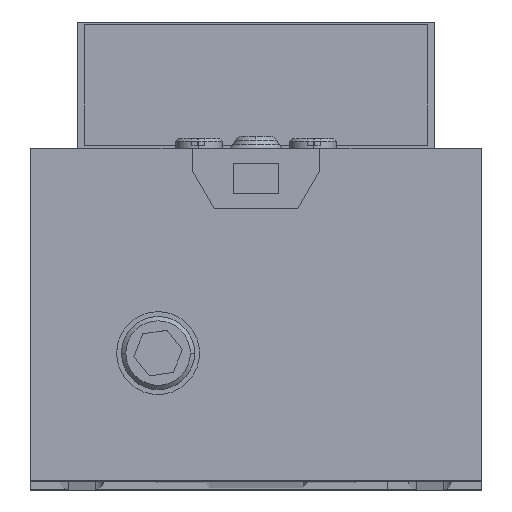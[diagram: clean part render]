
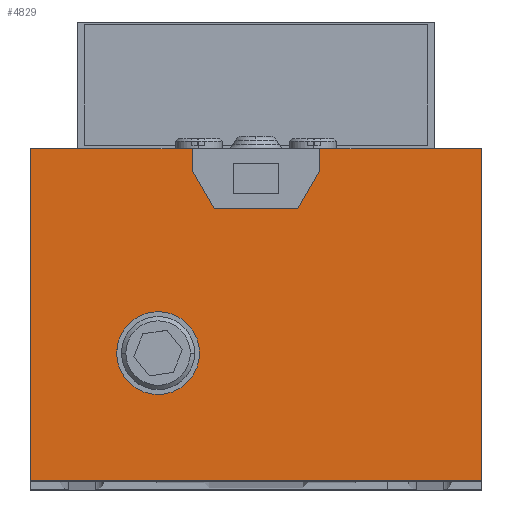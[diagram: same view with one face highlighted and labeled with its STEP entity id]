
A CAD part, top view. The second image highlights one B-rep face of the part: STEP entity #4829.
In plain terms, the highlighted planar face has unit normal (0, 0, 1).
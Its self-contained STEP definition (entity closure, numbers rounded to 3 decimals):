
#79 = DIRECTION ( 'NONE',  ( 1., 0., 0. ) ) ;
#180 = EDGE_CURVE ( 'NONE', #296, #12547, #5955, .T. ) ;
#217 = CARTESIAN_POINT ( 'NONE',  ( 0., 0., 30. ) ) ;
#296 = VERTEX_POINT ( 'NONE', #8916 ) ;
#425 = LINE ( 'NONE', #2721, #6336 ) ;
#895 = EDGE_CURVE ( 'NONE', #3983, #8780, #11361, .T. ) ;
#1002 = EDGE_CURVE ( 'NONE', #8101, #296, #13985, .T. ) ;
#1092 = CARTESIAN_POINT ( 'NONE',  ( -26.5, 0., 30. ) ) ;
#1186 = EDGE_CURVE ( 'NONE', #3787, #2073, #9340, .T. ) ;
#1224 = VECTOR ( 'NONE', #12888, 1000. ) ;
#1311 = DIRECTION ( 'NONE',  ( 1., 0., 0. ) ) ;
#1518 = AXIS2_PLACEMENT_3D ( 'NONE', #217, #12612, #13792 ) ;
#1673 = CARTESIAN_POINT ( 'NONE',  ( -7.5, 39., 30. ) ) ;
#1676 = DIRECTION ( 'NONE',  ( 0., 0., 1. ) ) ;
#1858 = ORIENTED_EDGE ( 'NONE', *, *, #895, .T. ) ;
#1942 = DIRECTION ( 'NONE',  ( 0., -1., 0. ) ) ;
#2060 = DIRECTION ( 'NONE',  ( 0., 0., 1. ) ) ;
#2073 = VERTEX_POINT ( 'NONE', #10805 ) ;
#2089 = ORIENTED_EDGE ( 'NONE', *, *, #11333, .F. ) ;
#2658 = VECTOR ( 'NONE', #6036, 1000. ) ;
#2721 = CARTESIAN_POINT ( 'NONE',  ( -26.5, 39., 30. ) ) ;
#2723 = CARTESIAN_POINT ( 'NONE',  ( -4.9, 32., 30. ) ) ;
#3033 = LINE ( 'NONE', #14271, #8878 ) ;
#3170 = CARTESIAN_POINT ( 'NONE',  ( -16.365, 15., 30. ) ) ;
#3192 = ORIENTED_EDGE ( 'NONE', *, *, #9588, .F. ) ;
#3418 = VERTEX_POINT ( 'NONE', #3170 ) ;
#3671 = PLANE ( 'NONE',  #1518 ) ;
#3787 = VERTEX_POINT ( 'NONE', #3978 ) ;
#3978 = CARTESIAN_POINT ( 'NONE',  ( 4.9, 32., 30. ) ) ;
#3983 = VERTEX_POINT ( 'NONE', #8299 ) ;
#3995 = DIRECTION ( 'NONE',  ( 1., 0., 0. ) ) ;
#4612 = CARTESIAN_POINT ( 'NONE',  ( 4.9, 32., 30. ) ) ;
#4829 = ADVANCED_FACE ( 'NONE', ( #7302, #13667 ), #3671, .T. ) ;
#4854 = VERTEX_POINT ( 'NONE', #5975 ) ;
#4855 = DIRECTION ( 'NONE',  ( 0.5, -0.866, 0. ) ) ;
#5043 = CARTESIAN_POINT ( 'NONE',  ( 26.5, 39., 30. ) ) ;
#5399 = VECTOR ( 'NONE', #1311, 1000. ) ;
#5507 = LINE ( 'NONE', #11919, #13788 ) ;
#5543 = LINE ( 'NONE', #4612, #12081 ) ;
#5657 = AXIS2_PLACEMENT_3D ( 'NONE', #11643, #1676, #3995 ) ;
#5709 = EDGE_CURVE ( 'NONE', #8101, #6420, #5507, .T. ) ;
#5955 = LINE ( 'NONE', #10405, #11650 ) ;
#5975 = CARTESIAN_POINT ( 'NONE',  ( 7.5, 39., 30. ) ) ;
#6036 = DIRECTION ( 'NONE',  ( 0., 1., 0. ) ) ;
#6166 = EDGE_CURVE ( 'NONE', #2073, #4854, #9204, .T. ) ;
#6336 = VECTOR ( 'NONE', #7134, 1000. ) ;
#6420 = VERTEX_POINT ( 'NONE', #13857 ) ;
#6438 = CARTESIAN_POINT ( 'NONE',  ( 26.5, 0., 30. ) ) ;
#6475 = DIRECTION ( 'NONE',  ( 1., 0., 0. ) ) ;
#6566 = CIRCLE ( 'NONE', #5657, 4.865 ) ;
#6584 = EDGE_LOOP ( 'NONE', ( #3192, #2089 ) ) ;
#6739 = AXIS2_PLACEMENT_3D ( 'NONE', #7563, #2060, #6475 ) ;
#6750 = ORIENTED_EDGE ( 'NONE', *, *, #6872, .T. ) ;
#6872 = EDGE_CURVE ( 'NONE', #6420, #3983, #3033, .T. ) ;
#7087 = DIRECTION ( 'NONE',  ( 0., 1., 0. ) ) ;
#7134 = DIRECTION ( 'NONE',  ( -1., 0., 0. ) ) ;
#7302 = FACE_BOUND ( 'NONE', #6584, .T. ) ;
#7320 = ORIENTED_EDGE ( 'NONE', *, *, #180, .F. ) ;
#7323 = CARTESIAN_POINT ( 'NONE',  ( -7.5, 36.5, 30. ) ) ;
#7357 = EDGE_CURVE ( 'NONE', #8780, #13199, #12542, .T. ) ;
#7563 = CARTESIAN_POINT ( 'NONE',  ( -11.5, 15., 30. ) ) ;
#7697 = VECTOR ( 'NONE', #11410, 1000. ) ;
#8101 = VERTEX_POINT ( 'NONE', #1673 ) ;
#8127 = ORIENTED_EDGE ( 'NONE', *, *, #5709, .T. ) ;
#8299 = CARTESIAN_POINT ( 'NONE',  ( -26.5, 0., 30. ) ) ;
#8780 = VERTEX_POINT ( 'NONE', #6438 ) ;
#8878 = VECTOR ( 'NONE', #1942, 1000. ) ;
#8916 = CARTESIAN_POINT ( 'NONE',  ( -7.5, 36.5, 30. ) ) ;
#9204 = LINE ( 'NONE', #11548, #10973 ) ;
#9292 = EDGE_CURVE ( 'NONE', #13199, #4854, #425, .T. ) ;
#9340 = LINE ( 'NONE', #13689, #7697 ) ;
#9588 = EDGE_CURVE ( 'NONE', #13332, #3418, #6566, .T. ) ;
#9993 = CARTESIAN_POINT ( 'NONE',  ( -6.635, 15., 30. ) ) ;
#10049 = ORIENTED_EDGE ( 'NONE', *, *, #13481, .F. ) ;
#10267 = EDGE_LOOP ( 'NONE', ( #11911, #8127, #6750, #1858, #10566, #13779, #13691, #11219, #10049, #7320 ) ) ;
#10405 = CARTESIAN_POINT ( 'NONE',  ( -4.9, 32., 30. ) ) ;
#10566 = ORIENTED_EDGE ( 'NONE', *, *, #7357, .T. ) ;
#10805 = CARTESIAN_POINT ( 'NONE',  ( 7.5, 36.5, 30. ) ) ;
#10973 = VECTOR ( 'NONE', #7087, 1000. ) ;
#11219 = ORIENTED_EDGE ( 'NONE', *, *, #1186, .F. ) ;
#11333 = EDGE_CURVE ( 'NONE', #3418, #13332, #13286, .T. ) ;
#11361 = LINE ( 'NONE', #1092, #5399 ) ;
#11410 = DIRECTION ( 'NONE',  ( 0.5, 0.866, 0. ) ) ;
#11548 = CARTESIAN_POINT ( 'NONE',  ( 7.5, 39., 30. ) ) ;
#11643 = CARTESIAN_POINT ( 'NONE',  ( -11.5, 15., 30. ) ) ;
#11650 = VECTOR ( 'NONE', #4855, 1000. ) ;
#11911 = ORIENTED_EDGE ( 'NONE', *, *, #1002, .F. ) ;
#11919 = CARTESIAN_POINT ( 'NONE',  ( -26.5, 39., 30. ) ) ;
#12081 = VECTOR ( 'NONE', #79, 1000. ) ;
#12542 = LINE ( 'NONE', #13940, #2658 ) ;
#12547 = VERTEX_POINT ( 'NONE', #2723 ) ;
#12612 = DIRECTION ( 'NONE',  ( 0., 0., 1. ) ) ;
#12888 = DIRECTION ( 'NONE',  ( 0., -1., 0. ) ) ;
#13199 = VERTEX_POINT ( 'NONE', #5043 ) ;
#13286 = CIRCLE ( 'NONE', #6739, 4.865 ) ;
#13332 = VERTEX_POINT ( 'NONE', #9993 ) ;
#13481 = EDGE_CURVE ( 'NONE', #12547, #3787, #5543, .T. ) ;
#13667 = FACE_OUTER_BOUND ( 'NONE', #10267, .T. ) ;
#13689 = CARTESIAN_POINT ( 'NONE',  ( 7.5, 36.5, 30. ) ) ;
#13691 = ORIENTED_EDGE ( 'NONE', *, *, #6166, .F. ) ;
#13779 = ORIENTED_EDGE ( 'NONE', *, *, #9292, .T. ) ;
#13788 = VECTOR ( 'NONE', #14439, 1000. ) ;
#13792 = DIRECTION ( 'NONE',  ( 1., 0., 0. ) ) ;
#13857 = CARTESIAN_POINT ( 'NONE',  ( -26.5, 39., 30. ) ) ;
#13940 = CARTESIAN_POINT ( 'NONE',  ( 26.5, 39., 30. ) ) ;
#13985 = LINE ( 'NONE', #7323, #1224 ) ;
#14271 = CARTESIAN_POINT ( 'NONE',  ( -26.5, 39., 30. ) ) ;
#14439 = DIRECTION ( 'NONE',  ( -1., 0., 0. ) ) ;
